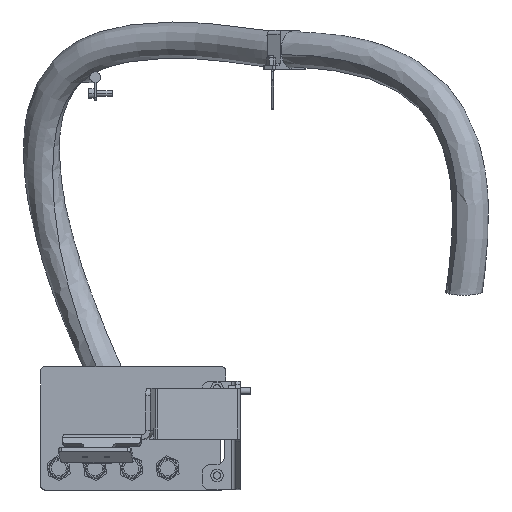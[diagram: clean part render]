
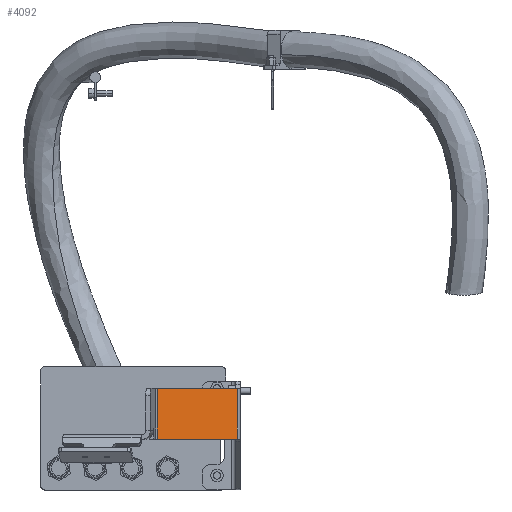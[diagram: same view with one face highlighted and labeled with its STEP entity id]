
A CAD part, left-side view. The second image highlights one B-rep face of the part: STEP entity #4092.
In plain terms, the highlighted planar face has unit normal (-0.766, -0.643, 0).
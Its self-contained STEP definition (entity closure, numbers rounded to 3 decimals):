
#122 = CARTESIAN_POINT ( 'NONE',  ( 110.879, 27.442, 1744. ) ) ;
#128 = CARTESIAN_POINT ( 'NONE',  ( 237.839, -123.863, 1824. ) ) ;
#256 = DIRECTION ( 'NONE',  ( -0.766, -0.643, 0. ) ) ;
#1031 = ORIENTED_EDGE ( 'NONE', *, *, #19087, .T. ) ;
#1604 = VECTOR ( 'NONE', #21046, 1000. ) ;
#1620 = EDGE_CURVE ( 'NONE', #2073, #2537, #22476, .T. ) ;
#2073 = VERTEX_POINT ( 'NONE', #122 ) ;
#2537 = VERTEX_POINT ( 'NONE', #22265 ) ;
#2715 = ORIENTED_EDGE ( 'NONE', *, *, #24189, .F. ) ;
#4092 = ADVANCED_FACE ( 'NONE', ( #22950 ), #21339, .T. ) ;
#4236 = ORIENTED_EDGE ( 'NONE', *, *, #1620, .F. ) ;
#6803 = CARTESIAN_POINT ( 'NONE',  ( 237.839, -123.863, 1744. ) ) ;
#7551 = CARTESIAN_POINT ( 'NONE',  ( 203.394, -82.813, 1824. ) ) ;
#8028 = EDGE_CURVE ( 'NONE', #13659, #2537, #10802, .T. ) ;
#8639 = LINE ( 'NONE', #6803, #14683 ) ;
#9204 = CARTESIAN_POINT ( 'NONE',  ( 203.394, -82.813, 1744. ) ) ;
#10254 = VERTEX_POINT ( 'NONE', #9204 ) ;
#10802 = LINE ( 'NONE', #20361, #13720 ) ;
#13058 = DIRECTION ( 'NONE',  ( 0., 0., 1. ) ) ;
#13659 = VERTEX_POINT ( 'NONE', #16419 ) ;
#13720 = VECTOR ( 'NONE', #14398, 1000. ) ;
#14398 = DIRECTION ( 'NONE',  ( -0.643, 0.766, 0. ) ) ;
#14569 = CARTESIAN_POINT ( 'NONE',  ( 110.879, 27.442, 1744. ) ) ;
#14683 = VECTOR ( 'NONE', #19687, 1000. ) ;
#15452 = LINE ( 'NONE', #7551, #1604 ) ;
#16419 = CARTESIAN_POINT ( 'NONE',  ( 203.394, -82.813, 1814. ) ) ;
#17222 = ORIENTED_EDGE ( 'NONE', *, *, #8028, .T. ) ;
#18518 = AXIS2_PLACEMENT_3D ( 'NONE', #128, #256, #22820 ) ;
#18730 = VECTOR ( 'NONE', #13058, 1000. ) ;
#19087 = EDGE_CURVE ( 'NONE', #2073, #10254, #8639, .T. ) ;
#19687 = DIRECTION ( 'NONE',  ( 0.643, -0.766, 0. ) ) ;
#20161 = EDGE_LOOP ( 'NONE', ( #17222, #4236, #1031, #2715 ) ) ;
#20361 = CARTESIAN_POINT ( 'NONE',  ( 237.839, -123.863, 1814. ) ) ;
#21046 = DIRECTION ( 'NONE',  ( 0., 0., -1. ) ) ;
#21339 = PLANE ( 'NONE',  #18518 ) ;
#22265 = CARTESIAN_POINT ( 'NONE',  ( 110.879, 27.442, 1814. ) ) ;
#22476 = LINE ( 'NONE', #14569, #18730 ) ;
#22820 = DIRECTION ( 'NONE',  ( 0.643, -0.766, 0. ) ) ;
#22950 = FACE_OUTER_BOUND ( 'NONE', #20161, .T. ) ;
#24189 = EDGE_CURVE ( 'NONE', #13659, #10254, #15452, .T. ) ;
